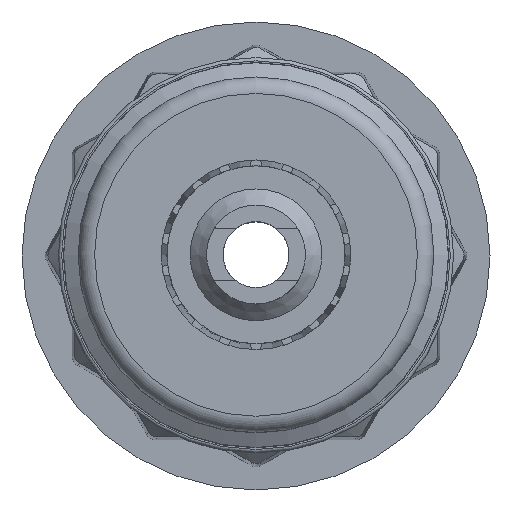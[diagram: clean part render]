
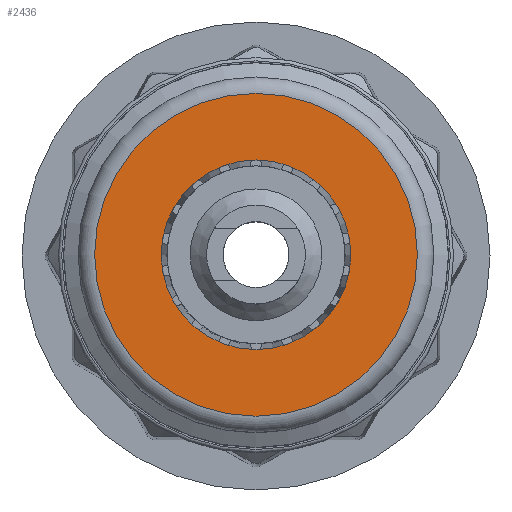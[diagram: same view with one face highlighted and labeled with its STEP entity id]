
A CAD part, top view. The second image highlights one B-rep face of the part: STEP entity #2436.
In plain terms, the highlighted planar face has unit normal (0, 0, 1).
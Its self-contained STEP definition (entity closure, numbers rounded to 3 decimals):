
#31 = DIRECTION ( 'NONE',  ( 0., 0., 1. ) ) ;
#438 = DIRECTION ( 'NONE',  ( -1., 0., 0. ) ) ;
#486 = ORIENTED_EDGE ( 'NONE', *, *, #2878, .F. ) ;
#527 = DIRECTION ( 'NONE',  ( 1., 0., 0. ) ) ;
#586 = CARTESIAN_POINT ( 'NONE',  ( 0., 0., 24. ) ) ;
#1147 = EDGE_CURVE ( 'NONE', #3934, #3934, #5048, .T. ) ;
#1275 = FACE_BOUND ( 'NONE', #3733, .T. ) ;
#1424 = PLANE ( 'NONE',  #2713 ) ;
#1474 = DIRECTION ( 'NONE',  ( 0., 0., -1. ) ) ;
#1917 = FACE_OUTER_BOUND ( 'NONE', #4865, .T. ) ;
#2436 = ADVANCED_FACE ( 'NONE', ( #1917, #1275 ), #1424, .F. ) ;
#2558 = CARTESIAN_POINT ( 'NONE',  ( 0., 0., 24. ) ) ;
#2706 = CIRCLE ( 'NONE', #2797, 2.879 ) ;
#2713 = AXIS2_PLACEMENT_3D ( 'NONE', #4537, #1474, #438 ) ;
#2742 = VERTEX_POINT ( 'NONE', #5989 ) ;
#2797 = AXIS2_PLACEMENT_3D ( 'NONE', #2558, #31, #527 ) ;
#2878 = EDGE_CURVE ( 'NONE', #2742, #2742, #2706, .T. ) ;
#3311 = AXIS2_PLACEMENT_3D ( 'NONE', #586, #4130, #4211 ) ;
#3379 = ORIENTED_EDGE ( 'NONE', *, *, #1147, .T. ) ;
#3733 = EDGE_LOOP ( 'NONE', ( #486 ) ) ;
#3934 = VERTEX_POINT ( 'NONE', #5966 ) ;
#4130 = DIRECTION ( 'NONE',  ( 0., 0., 1. ) ) ;
#4211 = DIRECTION ( 'NONE',  ( -1., 0., 0. ) ) ;
#4537 = CARTESIAN_POINT ( 'NONE',  ( 0., 5.4, 24. ) ) ;
#4865 = EDGE_LOOP ( 'NONE', ( #3379 ) ) ;
#5048 = CIRCLE ( 'NONE', #3311, 4.9 ) ;
#5966 = CARTESIAN_POINT ( 'NONE',  ( -4.9, 0., 24. ) ) ;
#5989 = CARTESIAN_POINT ( 'NONE',  ( 2.879, 0., 24. ) ) ;
